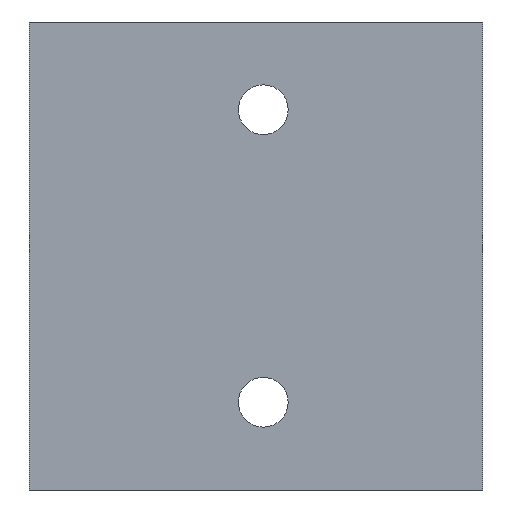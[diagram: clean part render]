
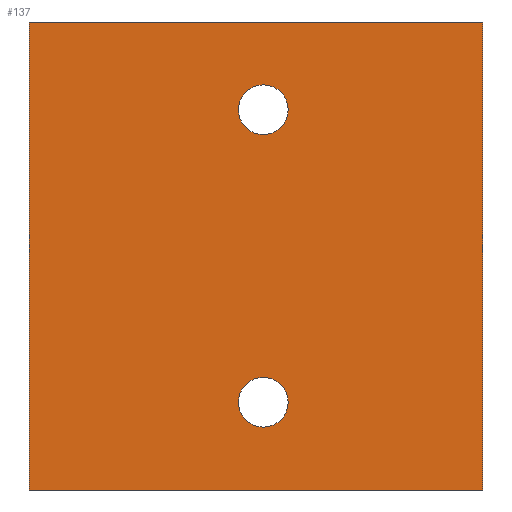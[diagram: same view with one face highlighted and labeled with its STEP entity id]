
A CAD part, front view. The second image highlights one B-rep face of the part: STEP entity #137.
In plain terms, the highlighted planar face has unit normal (0, -1, 0).
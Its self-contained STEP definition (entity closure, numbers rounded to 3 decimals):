
#21 = EDGE_CURVE('',#22,#24,#26,.T.);
#22 = VERTEX_POINT('',#23);
#23 = CARTESIAN_POINT('',(-25.,-26.,-16.));
#24 = VERTEX_POINT('',#25);
#25 = CARTESIAN_POINT('',(-25.,-26.,16.));
#26 = SURFACE_CURVE('',#27,(#31,#43),.PCURVE_S1.);
#27 = LINE('',#28,#29);
#28 = CARTESIAN_POINT('',(-25.,-26.,-16.));
#29 = VECTOR('',#30,1.);
#30 = DIRECTION('',(0.,0.,1.));
#31 = PCURVE('',#32,#37);
#32 = PLANE('',#33);
#33 = AXIS2_PLACEMENT_3D('',#34,#35,#36);
#34 = CARTESIAN_POINT('',(-25.,-26.,-16.));
#35 = DIRECTION('',(-1.,-0.,0.));
#36 = DIRECTION('',(0.,0.,-1.));
#37 = DEFINITIONAL_REPRESENTATION('',(#38),#42);
#38 = LINE('',#39,#40);
#39 = CARTESIAN_POINT('',(-0.,-0.));
#40 = VECTOR('',#41,1.);
#41 = DIRECTION('',(-1.,-0.));
#42 = ( GEOMETRIC_REPRESENTATION_CONTEXT(2) 
PARAMETRIC_REPRESENTATION_CONTEXT() REPRESENTATION_CONTEXT('2D SPACE',''
  ) );
#43 = PCURVE('',#44,#49);
#44 = PLANE('',#45);
#45 = AXIS2_PLACEMENT_3D('',#46,#47,#48);
#46 = CARTESIAN_POINT('',(-25.,-26.,-16.));
#47 = DIRECTION('',(-0.,1.,-0.));
#48 = DIRECTION('',(0.,0.,-1.));
#49 = DEFINITIONAL_REPRESENTATION('',(#50),#54);
#50 = LINE('',#51,#52);
#51 = CARTESIAN_POINT('',(-0.,-0.));
#52 = VECTOR('',#53,1.);
#53 = DIRECTION('',(-1.,-0.));
#54 = ( GEOMETRIC_REPRESENTATION_CONTEXT(2) 
PARAMETRIC_REPRESENTATION_CONTEXT() REPRESENTATION_CONTEXT('2D SPACE',''
  ) );
#72 = PLANE('',#73);
#73 = AXIS2_PLACEMENT_3D('',#74,#75,#76);
#74 = CARTESIAN_POINT('',(-25.,-26.,-16.));
#75 = DIRECTION('',(0.,0.,1.));
#76 = DIRECTION('',(1.,0.,0.));
#126 = PLANE('',#127);
#127 = AXIS2_PLACEMENT_3D('',#128,#129,#130);
#128 = CARTESIAN_POINT('',(-25.,-26.,16.));
#129 = DIRECTION('',(0.,0.,1.));
#130 = DIRECTION('',(1.,0.,0.));
#137 = ADVANCED_FACE('',(#138,#213,#248),#44,.F.);
#138 = FACE_BOUND('',#139,.T.);
#139 = EDGE_LOOP('',(#140,#170,#191,#192));
#140 = ORIENTED_EDGE('',*,*,#141,.F.);
#141 = EDGE_CURVE('',#142,#144,#146,.T.);
#142 = VERTEX_POINT('',#143);
#143 = CARTESIAN_POINT('',(-56.,-26.,-16.));
#144 = VERTEX_POINT('',#145);
#145 = CARTESIAN_POINT('',(-56.,-26.,16.));
#146 = SURFACE_CURVE('',#147,(#151,#158),.PCURVE_S1.);
#147 = LINE('',#148,#149);
#148 = CARTESIAN_POINT('',(-56.,-26.,-16.));
#149 = VECTOR('',#150,1.);
#150 = DIRECTION('',(-0.,-0.,1.));
#151 = PCURVE('',#44,#152);
#152 = DEFINITIONAL_REPRESENTATION('',(#153),#157);
#153 = LINE('',#154,#155);
#154 = CARTESIAN_POINT('',(-0.,31.));
#155 = VECTOR('',#156,1.);
#156 = DIRECTION('',(-1.,0.));
#157 = ( GEOMETRIC_REPRESENTATION_CONTEXT(2) 
PARAMETRIC_REPRESENTATION_CONTEXT() REPRESENTATION_CONTEXT('2D SPACE',''
  ) );
#158 = PCURVE('',#159,#164);
#159 = PLANE('',#160);
#160 = AXIS2_PLACEMENT_3D('',#161,#162,#163);
#161 = CARTESIAN_POINT('',(-56.,-26.,-16.));
#162 = DIRECTION('',(-1.,-0.,-0.));
#163 = DIRECTION('',(0.,0.,-1.));
#164 = DEFINITIONAL_REPRESENTATION('',(#165),#169);
#165 = LINE('',#166,#167);
#166 = CARTESIAN_POINT('',(-0.,-0.));
#167 = VECTOR('',#168,1.);
#168 = DIRECTION('',(-1.,-0.));
#169 = ( GEOMETRIC_REPRESENTATION_CONTEXT(2) 
PARAMETRIC_REPRESENTATION_CONTEXT() REPRESENTATION_CONTEXT('2D SPACE',''
  ) );
#170 = ORIENTED_EDGE('',*,*,#171,.F.);
#171 = EDGE_CURVE('',#22,#142,#172,.T.);
#172 = SURFACE_CURVE('',#173,(#177,#184),.PCURVE_S1.);
#173 = LINE('',#174,#175);
#174 = CARTESIAN_POINT('',(-25.,-26.,-16.));
#175 = VECTOR('',#176,1.);
#176 = DIRECTION('',(-1.,-0.,0.));
#177 = PCURVE('',#44,#178);
#178 = DEFINITIONAL_REPRESENTATION('',(#179),#183);
#179 = LINE('',#180,#181);
#180 = CARTESIAN_POINT('',(-0.,-0.));
#181 = VECTOR('',#182,1.);
#182 = DIRECTION('',(-0.,1.));
#183 = ( GEOMETRIC_REPRESENTATION_CONTEXT(2) 
PARAMETRIC_REPRESENTATION_CONTEXT() REPRESENTATION_CONTEXT('2D SPACE',''
  ) );
#184 = PCURVE('',#72,#185);
#185 = DEFINITIONAL_REPRESENTATION('',(#186),#190);
#186 = LINE('',#187,#188);
#187 = CARTESIAN_POINT('',(0.,-0.));
#188 = VECTOR('',#189,1.);
#189 = DIRECTION('',(-1.,0.));
#190 = ( GEOMETRIC_REPRESENTATION_CONTEXT(2) 
PARAMETRIC_REPRESENTATION_CONTEXT() REPRESENTATION_CONTEXT('2D SPACE',''
  ) );
#191 = ORIENTED_EDGE('',*,*,#21,.T.);
#192 = ORIENTED_EDGE('',*,*,#193,.T.);
#193 = EDGE_CURVE('',#24,#144,#194,.T.);
#194 = SURFACE_CURVE('',#195,(#199,#206),.PCURVE_S1.);
#195 = LINE('',#196,#197);
#196 = CARTESIAN_POINT('',(-25.,-26.,16.));
#197 = VECTOR('',#198,1.);
#198 = DIRECTION('',(-1.,-0.,0.));
#199 = PCURVE('',#44,#200);
#200 = DEFINITIONAL_REPRESENTATION('',(#201),#205);
#201 = LINE('',#202,#203);
#202 = CARTESIAN_POINT('',(-32.,-0.));
#203 = VECTOR('',#204,1.);
#204 = DIRECTION('',(-0.,1.));
#205 = ( GEOMETRIC_REPRESENTATION_CONTEXT(2) 
PARAMETRIC_REPRESENTATION_CONTEXT() REPRESENTATION_CONTEXT('2D SPACE',''
  ) );
#206 = PCURVE('',#126,#207);
#207 = DEFINITIONAL_REPRESENTATION('',(#208),#212);
#208 = LINE('',#209,#210);
#209 = CARTESIAN_POINT('',(0.,-0.));
#210 = VECTOR('',#211,1.);
#211 = DIRECTION('',(-1.,0.));
#212 = ( GEOMETRIC_REPRESENTATION_CONTEXT(2) 
PARAMETRIC_REPRESENTATION_CONTEXT() REPRESENTATION_CONTEXT('2D SPACE',''
  ) );
#213 = FACE_BOUND('',#214,.T.);
#214 = EDGE_LOOP('',(#215));
#215 = ORIENTED_EDGE('',*,*,#216,.F.);
#216 = EDGE_CURVE('',#217,#217,#219,.T.);
#217 = VERTEX_POINT('',#218);
#218 = CARTESIAN_POINT('',(-40.,-26.,-8.3));
#219 = SURFACE_CURVE('',#220,(#225,#236),.PCURVE_S1.);
#220 = CIRCLE('',#221,1.7);
#221 = AXIS2_PLACEMENT_3D('',#222,#223,#224);
#222 = CARTESIAN_POINT('',(-40.,-26.,-10.));
#223 = DIRECTION('',(0.,-1.,0.));
#224 = DIRECTION('',(-0.,-0.,1.));
#225 = PCURVE('',#44,#226);
#226 = DEFINITIONAL_REPRESENTATION('',(#227),#235);
#227 = ( BOUNDED_CURVE() B_SPLINE_CURVE(2,(#228,#229,#230,#231,#232,#233
,#234),.UNSPECIFIED.,.T.,.F.) B_SPLINE_CURVE_WITH_KNOTS((1,2,2,2,2,1),(
    -2.094,0.,2.094,4.189,6.283,
8.378),.UNSPECIFIED.) CURVE() GEOMETRIC_REPRESENTATION_ITEM() 
RATIONAL_B_SPLINE_CURVE((1.,0.5,1.,0.5,1.,0.5,1.)) REPRESENTATION_ITEM(
  '') );
#228 = CARTESIAN_POINT('',(-7.7,15.));
#229 = CARTESIAN_POINT('',(-7.7,17.944));
#230 = CARTESIAN_POINT('',(-5.15,16.472));
#231 = CARTESIAN_POINT('',(-2.6,15.));
#232 = CARTESIAN_POINT('',(-5.15,13.528));
#233 = CARTESIAN_POINT('',(-7.7,12.056));
#234 = CARTESIAN_POINT('',(-7.7,15.));
#235 = ( GEOMETRIC_REPRESENTATION_CONTEXT(2) 
PARAMETRIC_REPRESENTATION_CONTEXT() REPRESENTATION_CONTEXT('2D SPACE',''
  ) );
#236 = PCURVE('',#237,#242);
#237 = CYLINDRICAL_SURFACE('',#238,1.7);
#238 = AXIS2_PLACEMENT_3D('',#239,#240,#241);
#239 = CARTESIAN_POINT('',(-40.,-27.,-10.));
#240 = DIRECTION('',(-0.,1.,-0.));
#241 = DIRECTION('',(-0.,-0.,1.));
#242 = DEFINITIONAL_REPRESENTATION('',(#243),#247);
#243 = LINE('',#244,#245);
#244 = CARTESIAN_POINT('',(-0.,1.));
#245 = VECTOR('',#246,1.);
#246 = DIRECTION('',(-1.,0.));
#247 = ( GEOMETRIC_REPRESENTATION_CONTEXT(2) 
PARAMETRIC_REPRESENTATION_CONTEXT() REPRESENTATION_CONTEXT('2D SPACE',''
  ) );
#248 = FACE_BOUND('',#249,.T.);
#249 = EDGE_LOOP('',(#250));
#250 = ORIENTED_EDGE('',*,*,#251,.F.);
#251 = EDGE_CURVE('',#252,#252,#254,.T.);
#252 = VERTEX_POINT('',#253);
#253 = CARTESIAN_POINT('',(-40.,-26.,11.7));
#254 = SURFACE_CURVE('',#255,(#260,#271),.PCURVE_S1.);
#255 = CIRCLE('',#256,1.7);
#256 = AXIS2_PLACEMENT_3D('',#257,#258,#259);
#257 = CARTESIAN_POINT('',(-40.,-26.,10.));
#258 = DIRECTION('',(0.,-1.,0.));
#259 = DIRECTION('',(-0.,-0.,1.));
#260 = PCURVE('',#44,#261);
#261 = DEFINITIONAL_REPRESENTATION('',(#262),#270);
#262 = ( BOUNDED_CURVE() B_SPLINE_CURVE(2,(#263,#264,#265,#266,#267,#268
,#269),.UNSPECIFIED.,.T.,.F.) B_SPLINE_CURVE_WITH_KNOTS((1,2,2,2,2,1),(
    -2.094,0.,2.094,4.189,6.283,
8.378),.UNSPECIFIED.) CURVE() GEOMETRIC_REPRESENTATION_ITEM() 
RATIONAL_B_SPLINE_CURVE((1.,0.5,1.,0.5,1.,0.5,1.)) REPRESENTATION_ITEM(
  '') );
#263 = CARTESIAN_POINT('',(-27.7,15.));
#264 = CARTESIAN_POINT('',(-27.7,17.944));
#265 = CARTESIAN_POINT('',(-25.15,16.472));
#266 = CARTESIAN_POINT('',(-22.6,15.));
#267 = CARTESIAN_POINT('',(-25.15,13.528));
#268 = CARTESIAN_POINT('',(-27.7,12.056));
#269 = CARTESIAN_POINT('',(-27.7,15.));
#270 = ( GEOMETRIC_REPRESENTATION_CONTEXT(2) 
PARAMETRIC_REPRESENTATION_CONTEXT() REPRESENTATION_CONTEXT('2D SPACE',''
  ) );
#271 = PCURVE('',#272,#277);
#272 = CYLINDRICAL_SURFACE('',#273,1.7);
#273 = AXIS2_PLACEMENT_3D('',#274,#275,#276);
#274 = CARTESIAN_POINT('',(-40.,-27.,10.));
#275 = DIRECTION('',(-0.,1.,-0.));
#276 = DIRECTION('',(-0.,-0.,1.));
#277 = DEFINITIONAL_REPRESENTATION('',(#278),#282);
#278 = LINE('',#279,#280);
#279 = CARTESIAN_POINT('',(-0.,1.));
#280 = VECTOR('',#281,1.);
#281 = DIRECTION('',(-1.,0.));
#282 = ( GEOMETRIC_REPRESENTATION_CONTEXT(2) 
PARAMETRIC_REPRESENTATION_CONTEXT() REPRESENTATION_CONTEXT('2D SPACE',''
  ) );
